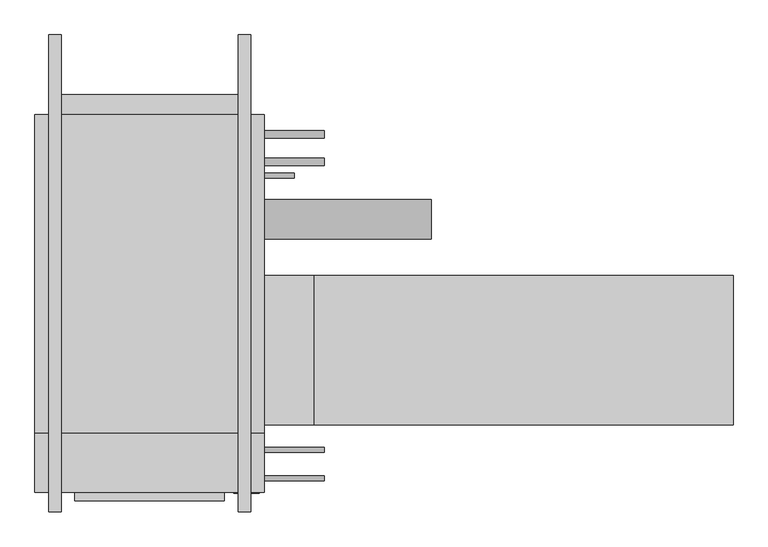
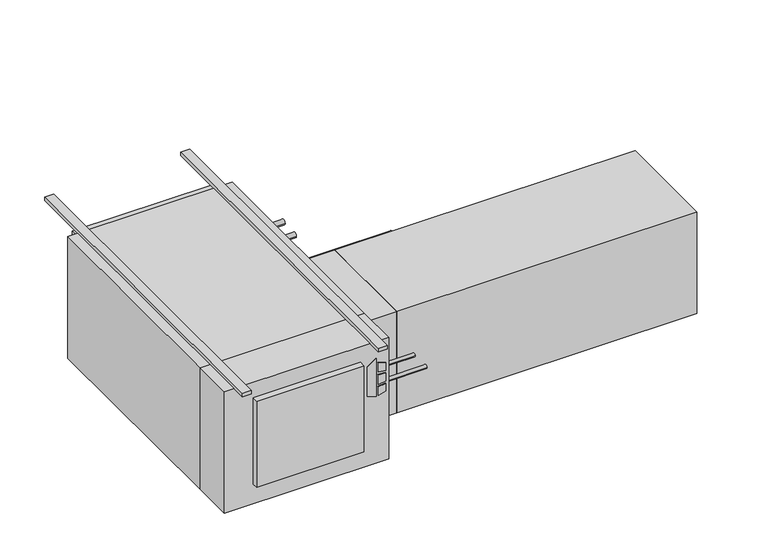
"""IFC4 building model written with IfcOpenShell, lengths in millimetres: proxy geometry."""

from ifc_helpers import new_model, si_unit, point, frame, frame_2d, origin, origin_with_axes, place, context, project, spatial, polyline, circle_curve, trimmed, segment, composite_curve, outline, extrude, source, transform, mapped, element, save


def mechanical_equipment_6e5dec12(model_context):
    return source(origin(), model_context, "Body", "SweptSolid", [
        extrude(outline(polyline([(-193.2519297, 366.7868862), (-203.2, 398.9602728), (-61.0290756, 398.9602728), (-84.0510817, 366.7868862), (-193.2519297, 366.7868862)])), frame((0.0, -797.052, 0.0), z_axis=(0.0, 1.0, 0.0), x_axis=(0.0, 0.0, 1.0)), (0.0, 0.0, 1.0), 3.175),
        extrude(outline(polyline([(-114.2526443, 405.7186058), (-117.4550368, 431.8), (-88.2261958, 431.8), (-80.1617807, 405.7186058), (-114.2526443, 405.7186058)])), frame((0.0, -797.052, 0.0), z_axis=(0.0, 1.0, 0.0), x_axis=(0.0, 0.0, 1.0)), (0.0, 0.0, 1.0), 3.175),
        extrude(outline(polyline([(-166.1161712, 431.8), (-169.7816721, 405.7186058), (-203.2, 405.7186058), (-194.5657628, 431.8), (-166.1161712, 431.8)])), frame((0.0, -797.052, 0.0), z_axis=(0.0, 1.0, 0.0), x_axis=(0.0, 0.0, 1.0)), (0.0, 0.0, 1.0), 3.175),
        extrude(outline(polyline([(-126.8010097, 431.8), (-124.5191834, 405.7186058), (-160.4567319, 405.7186058), (-157.7154669, 431.8), (-126.8010097, 431.8)])), frame((0.0, -797.052, 0.0), z_axis=(0.0, 1.0, 0.0), x_axis=(0.0, 0.0, 1.0)), (0.0, 0.0, 1.0), 3.175),
        extrude(outline(polyline([(444.5, -793.877), (-139.7, -793.877), (-139.7, -644.525), (444.5, -644.525), (444.5, -793.877)])), frame((0.0, 0.0, -457.2), z_axis=(0.0, 0.0, 1.0), x_axis=(1.0, 0.0, 0.0)), (0.0, 0.0, 1.0), 457.2),
        extrude(outline(polyline([(342.9, -816.229), (-38.1, -816.229), (-38.1, -793.877), (342.9, -793.877), (342.9, -816.229)])), frame((0.0, 0.0, -381.0), z_axis=(0.0, 0.0, 1.0), x_axis=(1.0, 0.0, 0.0)), (0.0, 0.0, 1.0), 323.85),
        extrude(outline(polyline([(1638.3, -241.3), (1638.3, -622.3), (571.5, -622.3), (571.5, -241.3), (1638.3, -241.3)])), frame((0.0, 0.0, -431.8), z_axis=(0.0, 0.0, 1.0), x_axis=(1.0, 0.0, 0.0)), (0.0, 0.0, 1.0), 381.0),
        extrude(outline(polyline([(571.5, -241.3), (571.5, -622.3), (444.5, -622.3), (444.5, -241.3), (571.5, -241.3)])), frame((0.0, 0.0, -431.8), z_axis=(0.0, 0.0, 1.0), x_axis=(1.0, 0.0, 0.0)), (0.0, 0.0, 1.0), 381.0),
        extrude(outline(composite_curve([segment(trimmed(circle_curve(frame_2d((-758.825, -184.15)), 6.35), [point((-752.475, -184.15))], [point((-765.175, -184.15))], False, "CARTESIAN"), True, "CONTINUOUS"), segment(trimmed(circle_curve(frame_2d((-758.825, -184.15)), 6.35), [point((-765.175, -184.15))], [point((-752.475, -184.15))], False, "CARTESIAN"), True, "CONTINUOUS")], self_intersect=False)), frame((444.5, 0.0, 0.0), z_axis=(1.0, 0.0, 0.0), x_axis=(0.0, 1.0, 0.0)), (0.0, 0.0, 1.0), 152.4),
        extrude(outline(composite_curve([segment(trimmed(circle_curve(frame_2d((-685.8, -184.15)), 6.35), [point((-679.45, -184.15))], [point((-692.15, -184.15))], False, "CARTESIAN"), True, "CONTINUOUS"), segment(trimmed(circle_curve(frame_2d((-685.8, -184.15)), 6.35), [point((-692.15, -184.15))], [point((-679.45, -184.15))], False, "CARTESIAN"), True, "CONTINUOUS")], self_intersect=False)), frame((444.5, 0.0, 0.0), z_axis=(1.0, 0.0, 0.0), x_axis=(0.0, 1.0, 0.0)), (0.0, 0.0, 1.0), 152.4),
        extrude(outline(composite_curve([segment(trimmed(circle_curve(frame_2d((117.475, -171.45)), 9.525), [point((127.0, -171.45))], [point((107.95, -171.45))], False, "CARTESIAN"), True, "CONTINUOUS"), segment(trimmed(circle_curve(frame_2d((117.475, -171.45)), 9.525), [point((107.95, -171.45))], [point((127.0, -171.45))], False, "CARTESIAN"), True, "CONTINUOUS")], self_intersect=False)), frame((444.5, 0.0, 0.0), z_axis=(1.0, 0.0, 0.0), x_axis=(0.0, 1.0, 0.0)), (0.0, 0.0, 1.0), 152.4),
        extrude(outline(composite_curve([segment(trimmed(circle_curve(frame_2d((47.625, -177.8)), 9.525), [point((57.15, -177.8))], [point((38.1, -177.8))], False, "CARTESIAN"), True, "CONTINUOUS"), segment(trimmed(circle_curve(frame_2d((47.625, -177.8)), 9.525), [point((38.1, -177.8))], [point((57.15, -177.8))], False, "CARTESIAN"), True, "CONTINUOUS")], self_intersect=False)), frame((444.5, 0.0, 0.0), z_axis=(1.0, 0.0, 0.0), x_axis=(0.0, 1.0, 0.0)), (0.0, 0.0, 1.0), 152.4),
        extrude(outline(composite_curve([segment(trimmed(circle_curve(frame_2d((-98.4896516, -228.6360165)), 50.8), [point((-47.6896516, -228.6360165))], [point((-149.2896516, -228.6360165))], False, "CARTESIAN"), True, "CONTINUOUS"), segment(trimmed(circle_curve(frame_2d((-98.4896516, -228.6360165)), 50.8), [point((-149.2896516, -228.6360165))], [point((-47.6896516, -228.6360165))], False, "CARTESIAN"), True, "CONTINUOUS")], self_intersect=False)), frame((444.5, 0.0, 0.0), z_axis=(1.0, 0.0, 0.0), x_axis=(0.0, 1.0, 0.0)), (0.0, 0.0, 1.0), 425.45),
        extrude(outline(composite_curve([segment(trimmed(circle_curve(frame_2d((12.7, -409.575)), 6.35), [point((19.05, -409.575))], [point((6.35, -409.575))], False, "CARTESIAN"), True, "CONTINUOUS"), segment(trimmed(circle_curve(frame_2d((12.7, -409.575)), 6.35), [point((6.35, -409.575))], [point((19.05, -409.575))], False, "CARTESIAN"), True, "CONTINUOUS")], self_intersect=False)), frame((444.5, 0.0, 0.0), z_axis=(1.0, 0.0, 0.0), x_axis=(0.0, 1.0, 0.0)), (0.0, 0.0, 1.0), 76.2),
        extrude(outline(polyline([(444.5, 168.275), (444.5, -644.525), (-139.7, -644.525), (-139.7, 168.275), (444.5, 168.275)])), frame((0.0, 0.0, -457.2), z_axis=(0.0, 0.0, 1.0), x_axis=(1.0, 0.0, 0.0)), (0.0, 0.0, 1.0), 457.2),
        extrude(outline(polyline([(-95.25, 219.075), (400.05, 219.075), (400.05, 168.275), (-95.25, 168.275), (-95.25, 219.075)])), frame((0.0, 0.0, -381.0), z_axis=(0.0, 0.0, 1.0), x_axis=(1.0, 0.0, 0.0)), (0.0, 0.0, 1.0), 355.6),
        extrude(outline(polyline([(-73.025, 371.475), (-73.025, -844.677), (-104.775, -844.677), (-104.775, 371.475), (-73.025, 371.475)])), origin_with_axes(), (0.0, 0.0, 1.0), 12.7),
        extrude(outline(polyline([(409.575, 371.475), (409.575, -844.677), (377.825, -844.677), (377.825, 371.475), (409.575, 371.475)])), origin_with_axes(), (0.0, 0.0, 1.0), 12.7),
    ])


if __name__ == "__main__":
    model = new_model("IFC4")
    model_context = context("Model", 3, world=origin())
    ifc_project = project(units=[si_unit("LENGTHUNIT", "METRE", prefix="MILLI")], contexts=[model_context])
    site = spatial("IfcSite", under=ifc_project)
    building = spatial("IfcBuilding", under=site)
    placement = place(None, origin())
    mechanical_equipment_shape = mechanical_equipment_6e5dec12(model_context)
    element("IfcBuildingElementProxy", 1, Name="High_Capacity_Horizontal_Cabinet_Fan_Coil_Unit_-_HTY_-_IEC_-_4-Pipe_RH Side_2022 : Size 06 - 115v/60Hz/1Ph - 4/1 Coil - 4\" AirIn", ObjectType="High_Capacity_Horizontal_Cabinet_Fan_Coil_Unit_-_HTY_-_IEC_-_4-Pipe_RH Side_2022 : Size 06 - 115v/60Hz/1Ph - 4/1 Coil - 4\" AirIn", at=placement, inside=building, context=model_context, shape_type="MappedRepresentation", body=[
        mapped(mechanical_equipment_shape, transform((0.0, 0.0, 0.0), x_axis=(1.0, 0.0, 0.0), y_axis=(0.0, 1.0, 0.0), z_axis=(0.0, 0.0, 1.0))),
    ])
    save(model, "model.ifc")
